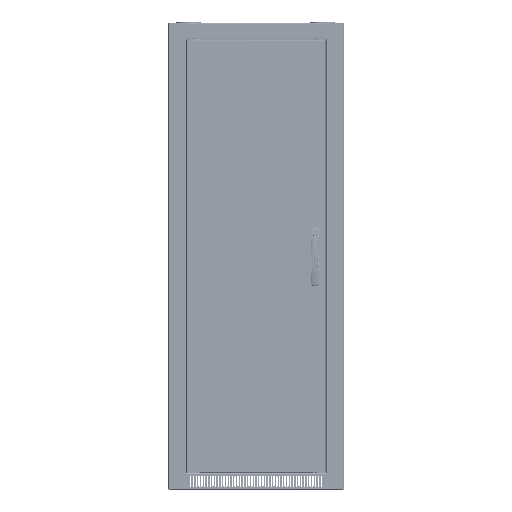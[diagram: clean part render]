
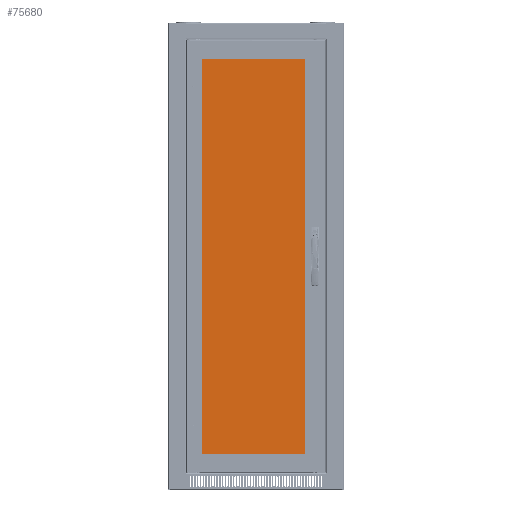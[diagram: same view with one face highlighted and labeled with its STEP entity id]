
A CAD part, top view. The second image highlights one B-rep face of the part: STEP entity #75680.
In plain terms, the highlighted planar face has unit normal (0, 0, 1) as drawn and (0, 0, -1) by its records, which use the part's own axes.
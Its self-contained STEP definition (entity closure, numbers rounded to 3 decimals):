
#56296 = EDGE_LOOP ( 'NONE', ( #85493, #85497 ) ) ;
#56304 = EDGE_LOOP ( 'NONE', ( #85501, #85504 ) ) ;
#56306 = EDGE_LOOP ( 'NONE', ( #85508, #85512, #85515, #85519, #85523, #85527, #85530, #85534 ) ) ;
#66530 = VERTEX_POINT ( 'NONE', #176737 ) ;
#66532 = VERTEX_POINT ( 'NONE', #176739 ) ;
#66538 = VERTEX_POINT ( 'NONE', #176744 ) ;
#66540 = VERTEX_POINT ( 'NONE', #176746 ) ;
#66562 = VERTEX_POINT ( 'NONE', #176766 ) ;
#66564 = VERTEX_POINT ( 'NONE', #176768 ) ;
#66566 = VERTEX_POINT ( 'NONE', #176770 ) ;
#66568 = VERTEX_POINT ( 'NONE', #176772 ) ;
#66570 = VERTEX_POINT ( 'NONE', #176773 ) ;
#66572 = VERTEX_POINT ( 'NONE', #176775 ) ;
#66574 = VERTEX_POINT ( 'NONE', #176777 ) ;
#66576 = VERTEX_POINT ( 'NONE', #176779 ) ;
#70110 = EDGE_CURVE ( 'NONE', #66530, #66532, #189451, .T. ) ;
#70117 = EDGE_CURVE ( 'NONE', #66538, #66540, #189470, .T. ) ;
#70133 = EDGE_CURVE ( 'NONE', #66570, #66568, #189515, .T. ) ;
#70135 = EDGE_CURVE ( 'NONE', #66532, #66530, #189527, .T. ) ;
#70137 = EDGE_CURVE ( 'NONE', #66562, #66564, #189448, .T. ) ;
#70138 = EDGE_CURVE ( 'NONE', #66540, #66538, #189537, .T. ) ;
#70140 = EDGE_CURVE ( 'NONE', #66566, #66562, #189519, .T. ) ;
#70141 = EDGE_CURVE ( 'NONE', #66568, #66566, #189535, .T. ) ;
#70143 = EDGE_CURVE ( 'NONE', #66572, #66570, #189533, .T. ) ;
#70145 = EDGE_CURVE ( 'NONE', #66574, #66572, #189530, .T. ) ;
#70146 = EDGE_CURVE ( 'NONE', #66576, #66574, #189544, .T. ) ;
#70148 = EDGE_CURVE ( 'NONE', #66564, #66576, #189549, .T. ) ;
#75680 = ADVANCED_FACE ( 'NONE', ( #243221, #243203, #243234 ), #240198, .F. ) ;
#85493 = ORIENTED_EDGE ( 'NONE', *, *, #70110, .F. ) ;
#85497 = ORIENTED_EDGE ( 'NONE', *, *, #70135, .F. ) ;
#85501 = ORIENTED_EDGE ( 'NONE', *, *, #70117, .F. ) ;
#85504 = ORIENTED_EDGE ( 'NONE', *, *, #70138, .F. ) ;
#85508 = ORIENTED_EDGE ( 'NONE', *, *, #70137, .F. ) ;
#85512 = ORIENTED_EDGE ( 'NONE', *, *, #70140, .F. ) ;
#85515 = ORIENTED_EDGE ( 'NONE', *, *, #70141, .F. ) ;
#85519 = ORIENTED_EDGE ( 'NONE', *, *, #70133, .F. ) ;
#85523 = ORIENTED_EDGE ( 'NONE', *, *, #70143, .F. ) ;
#85527 = ORIENTED_EDGE ( 'NONE', *, *, #70145, .F. ) ;
#85530 = ORIENTED_EDGE ( 'NONE', *, *, #70146, .F. ) ;
#85534 = ORIENTED_EDGE ( 'NONE', *, *, #70148, .F. ) ;
#176737 = CARTESIAN_POINT ( 'NONE',  ( 0.219, -9.732, 0. ) ) ;
#176739 = CARTESIAN_POINT ( 'NONE',  ( -0.219, -9.732, 0. ) ) ;
#176744 = CARTESIAN_POINT ( 'NONE',  ( 0.219, 9.733, 0. ) ) ;
#176746 = CARTESIAN_POINT ( 'NONE',  ( -0.219, 9.733, 0. ) ) ;
#176766 = CARTESIAN_POINT ( 'NONE',  ( -34.881, 10.217, 0. ) ) ;
#176768 = CARTESIAN_POINT ( 'NONE',  ( -36.811, 8.287, 0. ) ) ;
#176770 = CARTESIAN_POINT ( 'NONE',  ( 34.881, 10.217, 0. ) ) ;
#176772 = CARTESIAN_POINT ( 'NONE',  ( 36.811, 8.286, 0. ) ) ;
#176773 = CARTESIAN_POINT ( 'NONE',  ( 36.811, -8.286, 0. ) ) ;
#176775 = CARTESIAN_POINT ( 'NONE',  ( 34.881, -10.216, 0. ) ) ;
#176777 = CARTESIAN_POINT ( 'NONE',  ( -34.881, -10.216, 0. ) ) ;
#176779 = CARTESIAN_POINT ( 'NONE',  ( -36.811, -8.286, 0. ) ) ;
#178630 = AXIS2_PLACEMENT_3D ( 'NONE', #188031, #188038, #188040 ) ;
#178746 = AXIS2_PLACEMENT_3D ( 'NONE', #188056, #188079, #188083 ) ;
#178757 = AXIS2_PLACEMENT_3D ( 'NONE', #191629, #191635, #191638 ) ;
#178763 = AXIS2_PLACEMENT_3D ( 'NONE', #191646, #191651, #191653 ) ;
#188031 = CARTESIAN_POINT ( 'NONE',  ( 0., -9.732, 0. ) ) ;
#188038 = DIRECTION ( 'NONE',  ( 0., 0., -1. ) ) ;
#188040 = DIRECTION ( 'NONE',  ( 1., 0., 0. ) ) ;
#188056 = CARTESIAN_POINT ( 'NONE',  ( 0., 9.733, 0. ) ) ;
#188079 = DIRECTION ( 'NONE',  ( 0., 0., -1. ) ) ;
#188083 = DIRECTION ( 'NONE',  ( 1., 0., 0. ) ) ;
#188128 = CARTESIAN_POINT ( 'NONE',  ( 34.881, 10.217, 0. ) ) ;
#189448 = LINE ( 'NONE', #191641, #189485 ) ;
#189451 = CIRCLE ( 'NONE', #178630, 0.219 ) ;
#189470 = CIRCLE ( 'NONE', #178746, 0.219 ) ;
#189485 = VECTOR ( 'NONE', #191644, 39.37 ) ;
#189515 = LINE ( 'NONE', #191624, #189517 ) ;
#189517 = VECTOR ( 'NONE', #191627, 39.37 ) ;
#189519 = LINE ( 'NONE', #191658, #189522 ) ;
#189522 = VECTOR ( 'NONE', #191661, 39.37 ) ;
#189527 = CIRCLE ( 'NONE', #178757, 0.219 ) ;
#189530 = LINE ( 'NONE', #191670, #189552 ) ;
#189533 = LINE ( 'NONE', #191663, #189546 ) ;
#189535 = LINE ( 'NONE', #188128, #189540 ) ;
#189537 = CIRCLE ( 'NONE', #178763, 0.219 ) ;
#189540 = VECTOR ( 'NONE', #191668, 39.37 ) ;
#189544 = LINE ( 'NONE', #191678, #189557 ) ;
#189546 = VECTOR ( 'NONE', #191675, 39.37 ) ;
#189549 = LINE ( 'NONE', #191685, #189562 ) ;
#189552 = VECTOR ( 'NONE', #191682, 39.37 ) ;
#189557 = VECTOR ( 'NONE', #191689, 39.37 ) ;
#189562 = VECTOR ( 'NONE', #191696, 39.37 ) ;
#191624 = CARTESIAN_POINT ( 'NONE',  ( 36.811, 10.217, 0. ) ) ;
#191627 = DIRECTION ( 'NONE',  ( 0., 1., 0. ) ) ;
#191629 = CARTESIAN_POINT ( 'NONE',  ( 0., -9.732, 0. ) ) ;
#191635 = DIRECTION ( 'NONE',  ( 0., 0., -1. ) ) ;
#191638 = DIRECTION ( 'NONE',  ( 1., 0., 0. ) ) ;
#191641 = CARTESIAN_POINT ( 'NONE',  ( -36.811, 8.287, 0. ) ) ;
#191644 = DIRECTION ( 'NONE',  ( -0.707, -0.707, 0. ) ) ;
#191646 = CARTESIAN_POINT ( 'NONE',  ( 0., 9.733, 0. ) ) ;
#191651 = DIRECTION ( 'NONE',  ( 0., 0., -1. ) ) ;
#191653 = DIRECTION ( 'NONE',  ( 1., 0., 0. ) ) ;
#191658 = CARTESIAN_POINT ( 'NONE',  ( -36.811, 10.216, 0. ) ) ;
#191661 = DIRECTION ( 'NONE',  ( -1., 0., 0. ) ) ;
#191663 = CARTESIAN_POINT ( 'NONE',  ( 36.811, -8.286, 0. ) ) ;
#191668 = DIRECTION ( 'NONE',  ( -0.707, 0.707, 0. ) ) ;
#191670 = CARTESIAN_POINT ( 'NONE',  ( -36.811, -10.216, 0. ) ) ;
#191675 = DIRECTION ( 'NONE',  ( 0.707, 0.707, 0. ) ) ;
#191678 = CARTESIAN_POINT ( 'NONE',  ( -36.811, -8.286, 0. ) ) ;
#191682 = DIRECTION ( 'NONE',  ( 1., 0., 0. ) ) ;
#191685 = CARTESIAN_POINT ( 'NONE',  ( -36.811, 10.216, 0. ) ) ;
#191689 = DIRECTION ( 'NONE',  ( 0.707, -0.707, 0. ) ) ;
#191696 = DIRECTION ( 'NONE',  ( 0., -1., 0. ) ) ;
#236994 = AXIS2_PLACEMENT_3D ( 'NONE', #240185, #240201, #240203 ) ;
#240185 = CARTESIAN_POINT ( 'NONE',  ( -36.811, -10.216, 0. ) ) ;
#240198 = PLANE ( 'NONE',  #236994 ) ;
#240201 = DIRECTION ( 'NONE',  ( 0., 0., 1. ) ) ;
#240203 = DIRECTION ( 'NONE',  ( 1., 0., 0. ) ) ;
#243203 = FACE_BOUND ( 'NONE', #56304, .T. ) ;
#243221 = FACE_BOUND ( 'NONE', #56296, .T. ) ;
#243234 = FACE_OUTER_BOUND ( 'NONE', #56306, .T. ) ;
